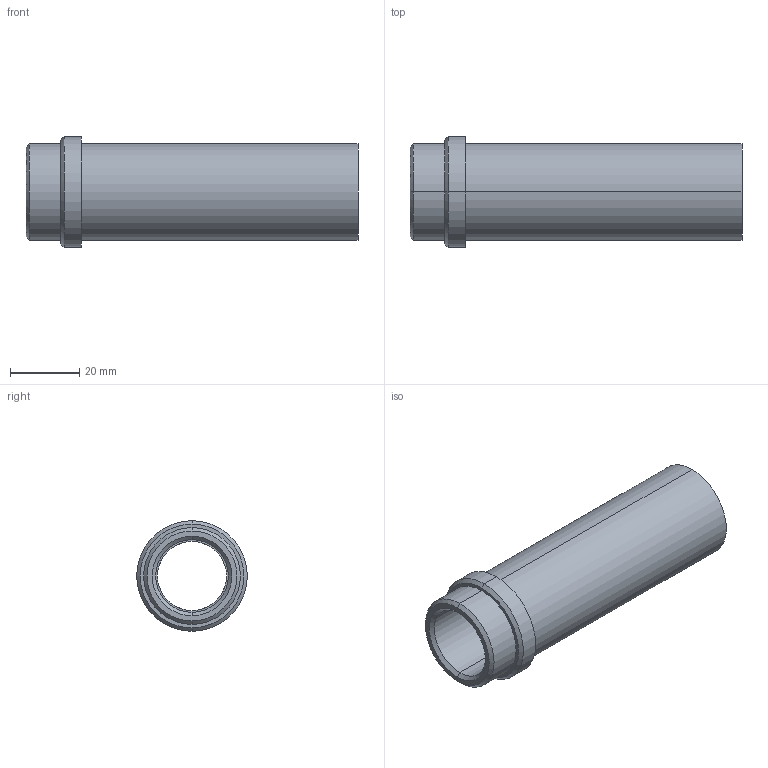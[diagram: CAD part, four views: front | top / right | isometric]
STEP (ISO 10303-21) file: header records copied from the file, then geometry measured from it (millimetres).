
FILE_DESCRIPTION(('CATIA V5 STEP Exchange'),'2;1');
FILE_NAME('C:\Users\Utente\Desktop\IO LAVORO\3D X SITO CF\X SITO\PLASTICA\358\358-20x96.stp','2021-04-08T12:41:15+00:00',('none'),('none'),'CATIA Version 5 Release 20 GA (IN-10)','CATIA V5 STEP AP203','none');
FILE_SCHEMA(('CONFIG_CONTROL_DESIGN'));
Length unit declared in the file: millimetre
Products named in the file (1): 358-20X96
Bounding box: 96 x 32 x 32 mm (x, y, z)
Volume: 28098.1 mm3; surface area: 15505.4 mm2
Topology: 1 solids, 1 shells, 23 faces, 74 edges, 56 vertices
Faces by surface type: cylinder 10, cone 6, plane 5, torus 2
Entity records: 1066 total; most frequent: CARTESIAN_POINT 378, ORIENTED_EDGE 148, DIRECTION 104, EDGE_CURVE 74, AXIS2_PLACEMENT_3D 66, VERTEX_POINT 56, CIRCLE 42, EDGE_LOOP 28
